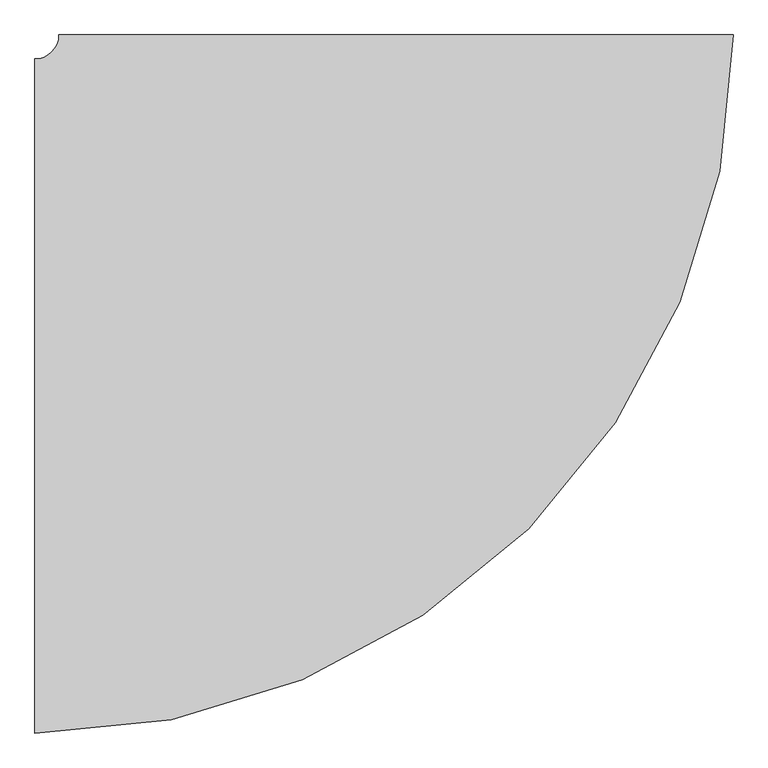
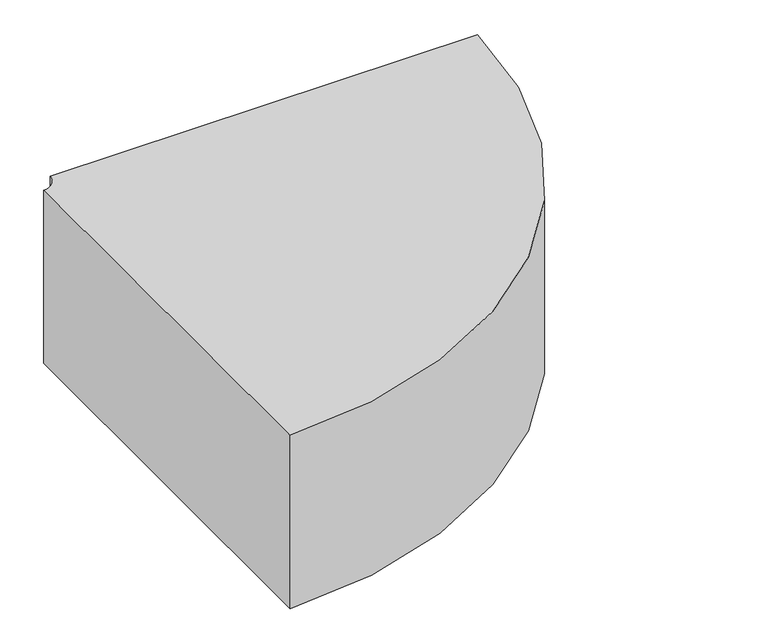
"""IFC4 building model written with IfcOpenShell, lengths in millimetres: duct fitting geometry, ADSK_ОтводВоздуховодов_Прямоугольный1 : Стандарт 2."""

from ifc_helpers import new_model, si_unit, point, frame, frame_2d, origin, place, context, project, spatial, polyline, circle_curve, trimmed, segment, composite_curve, outline, extrude, source, transform, mapped, element, save


def duct_fitting_aed367f4(model_context):
    return source(origin(), model_context, "Body", "SweptSolid", [
        extrude(outline(composite_curve([segment(trimmed(circle_curve(frame_2d((-750.0, 750.0)), 1450.0), [point((700.0, 750.0))], [point((-750.0, -700.0))], False, "CARTESIAN"), True, "CONTINUOUS"), segment(polyline([(-750.0, -700.0), (-750.0, 700.0)]), True, "CONTINUOUS"), segment(trimmed(circle_curve(frame_2d((-750.0, 750.0)), 50.0), [point((-750.0, 700.0))], [point((-700.0, 750.0))], True, "CARTESIAN"), True, "CONTINUOUS"), segment(polyline([(-700.0, 750.0), (700.0, 750.0)]), True, "CONTINUOUS")], self_intersect=False)), frame((0.0, 0.0, -300.0), z_axis=(0.0, 0.0, 1.0), x_axis=(1.0, 0.0, 0.0)), (0.0, 0.0, 1.0), 600.0),
    ])


if __name__ == "__main__":
    model = new_model("IFC4")
    model_context = context("Model", 3, world=origin())
    ifc_project = project(units=[si_unit("LENGTHUNIT", "METRE", prefix="MILLI")], contexts=[model_context])
    site = spatial("IfcSite", under=ifc_project)
    building = spatial("IfcBuilding", under=site)
    placement = place(None, origin())
    duct_fitting_shape = duct_fitting_aed367f4(model_context)
    element("IfcDuctFitting", 1, ObjectType="ADSK_ОтводВоздуховодов_Прямоугольный1 : Стандарт 2", at=placement, inside=building, context=model_context, shape_type="MappedRepresentation", body=[
        mapped(duct_fitting_shape, transform((0.0, 0.0, 0.0), x_axis=(1.0, 0.0, 0.0), y_axis=(0.0, 1.0, 0.0), z_axis=(0.0, 0.0, 1.0))),
    ])
    save(model, "model.ifc")
